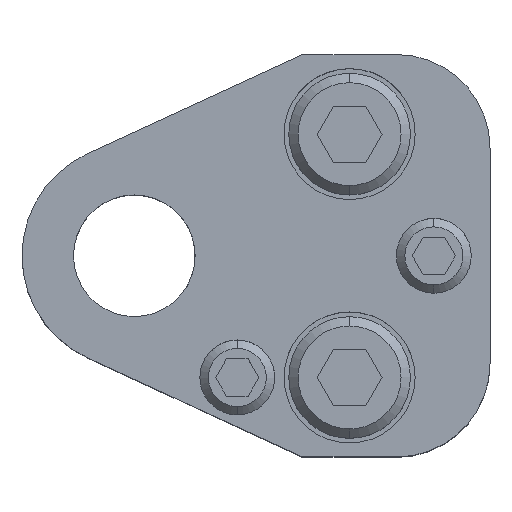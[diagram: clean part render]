
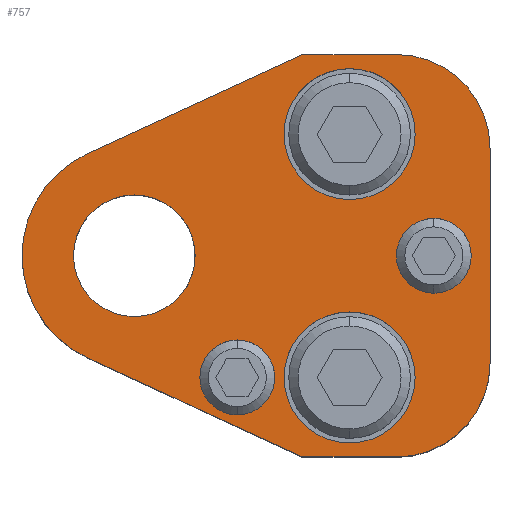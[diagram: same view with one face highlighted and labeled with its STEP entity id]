
A CAD part, top view. The second image highlights one B-rep face of the part: STEP entity #757.
In plain terms, the highlighted planar face has unit normal (0, 0, 1).
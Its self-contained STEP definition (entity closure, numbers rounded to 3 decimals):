
#428=LINE('',#3648,#598);
#433=LINE('',#3663,#603);
#437=LINE('',#3675,#607);
#442=LINE('',#3684,#612);
#447=LINE('',#3698,#617);
#598=VECTOR('',#2943,1.);
#603=VECTOR('',#2956,1.);
#607=VECTOR('',#2968,1.);
#612=VECTOR('',#2975,1.);
#617=VECTOR('',#2988,1.);
#757=ADVANCED_FACE('',(#863,#864,#865,#866,#867,#868),#834,.T.);
#834=PLANE('',#2455);
#863=FACE_BOUND('',#1003,.T.);
#864=FACE_BOUND('',#1004,.T.);
#865=FACE_BOUND('',#1005,.T.);
#866=FACE_BOUND('',#1006,.T.);
#867=FACE_BOUND('',#1007,.T.);
#868=FACE_BOUND('',#1008,.T.);
#1003=EDGE_LOOP('',(#1518,#1519,#1520,#1521,#1522,#1523,#1524,#1525));
#1004=EDGE_LOOP('',(#1526,#1527));
#1005=EDGE_LOOP('',(#1528,#1529));
#1006=EDGE_LOOP('',(#1530,#1531));
#1007=EDGE_LOOP('',(#1532,#1533));
#1008=EDGE_LOOP('',(#1534,#1535));
#1518=ORIENTED_EDGE('',*,*,#2038,.T.);
#1519=ORIENTED_EDGE('',*,*,#2020,.T.);
#1520=ORIENTED_EDGE('',*,*,#2024,.T.);
#1521=ORIENTED_EDGE('',*,*,#2027,.T.);
#1522=ORIENTED_EDGE('',*,*,#2030,.T.);
#1523=ORIENTED_EDGE('',*,*,#2033,.T.);
#1524=ORIENTED_EDGE('',*,*,#2045,.T.);
#1525=ORIENTED_EDGE('',*,*,#2041,.T.);
#1526=ORIENTED_EDGE('',*,*,#2080,.F.);
#1527=ORIENTED_EDGE('',*,*,#2081,.F.);
#1528=ORIENTED_EDGE('',*,*,#2082,.F.);
#1529=ORIENTED_EDGE('',*,*,#2083,.F.);
#1530=ORIENTED_EDGE('',*,*,#2070,.F.);
#1531=ORIENTED_EDGE('',*,*,#2066,.F.);
#1532=ORIENTED_EDGE('',*,*,#2064,.F.);
#1533=ORIENTED_EDGE('',*,*,#2060,.F.);
#1534=ORIENTED_EDGE('',*,*,#2084,.T.);
#1535=ORIENTED_EDGE('',*,*,#2085,.T.);
#1757=VERTEX_POINT('',#3647);
#1758=VERTEX_POINT('',#3649);
#1761=VERTEX_POINT('',#3656);
#1763=VERTEX_POINT('',#3662);
#1765=VERTEX_POINT('',#3668);
#1767=VERTEX_POINT('',#3674);
#1771=VERTEX_POINT('',#3685);
#1773=VERTEX_POINT('',#3691);
#1787=VERTEX_POINT('',#3733);
#1788=VERTEX_POINT('',#3734);
#1791=VERTEX_POINT('',#3745);
#1792=VERTEX_POINT('',#3746);
#1799=VERTEX_POINT('',#3773);
#1800=VERTEX_POINT('',#3774);
#1801=VERTEX_POINT('',#3777);
#1802=VERTEX_POINT('',#3778);
#1803=VERTEX_POINT('',#3781);
#1804=VERTEX_POINT('',#3782);
#2020=EDGE_CURVE('',#1758,#1757,#428,.T.);
#2024=EDGE_CURVE('',#1757,#1761,#2191,.T.);
#2027=EDGE_CURVE('',#1761,#1763,#433,.T.);
#2030=EDGE_CURVE('',#1763,#1765,#2193,.T.);
#2033=EDGE_CURVE('',#1765,#1767,#437,.T.);
#2038=EDGE_CURVE('',#1771,#1758,#442,.T.);
#2041=EDGE_CURVE('',#1773,#1771,#2196,.T.);
#2045=EDGE_CURVE('',#1767,#1773,#447,.T.);
#2060=EDGE_CURVE('',#1787,#1788,#2205,.T.);
#2064=EDGE_CURVE('',#1788,#1787,#2207,.T.);
#2066=EDGE_CURVE('',#1791,#1792,#2209,.T.);
#2070=EDGE_CURVE('',#1792,#1791,#2211,.T.);
#2080=EDGE_CURVE('',#1799,#1800,#2217,.T.);
#2081=EDGE_CURVE('',#1800,#1799,#2218,.T.);
#2082=EDGE_CURVE('',#1801,#1802,#2219,.T.);
#2083=EDGE_CURVE('',#1802,#1801,#2220,.T.);
#2084=EDGE_CURVE('',#1803,#1804,#2221,.T.);
#2085=EDGE_CURVE('',#1804,#1803,#2222,.T.);
#2191=CIRCLE('',#2406,10.);
#2193=CIRCLE('',#2410,10.);
#2196=CIRCLE('',#2416,12.);
#2205=CIRCLE('',#2429,4.);
#2207=CIRCLE('',#2432,4.);
#2209=CIRCLE('',#2435,4.);
#2211=CIRCLE('',#2438,4.);
#2217=CIRCLE('',#2449,7.);
#2218=CIRCLE('',#2450,7.);
#2219=CIRCLE('',#2451,7.);
#2220=CIRCLE('',#2452,7.);
#2221=CIRCLE('',#2453,6.5);
#2222=CIRCLE('',#2454,6.5);
#2406=AXIS2_PLACEMENT_3D('',#3657,#2949,#2950);
#2410=AXIS2_PLACEMENT_3D('',#3669,#2961,#2962);
#2416=AXIS2_PLACEMENT_3D('',#3690,#2981,#2982);
#2429=AXIS2_PLACEMENT_3D('',#3732,#3016,#3017);
#2432=AXIS2_PLACEMENT_3D('',#3741,#3024,#3025);
#2435=AXIS2_PLACEMENT_3D('',#3744,#3030,#3031);
#2438=AXIS2_PLACEMENT_3D('',#3753,#3038,#3039);
#2449=AXIS2_PLACEMENT_3D('',#3772,#3064,#3065);
#2450=AXIS2_PLACEMENT_3D('',#3775,#3066,#3067);
#2451=AXIS2_PLACEMENT_3D('',#3776,#3068,#3069);
#2452=AXIS2_PLACEMENT_3D('',#3779,#3070,#3071);
#2453=AXIS2_PLACEMENT_3D('',#3780,#3072,#3073);
#2454=AXIS2_PLACEMENT_3D('',#3783,#3074,#3075);
#2455=AXIS2_PLACEMENT_3D('',#3784,#3076,#3077);
#2943=DIRECTION('',(1.,0.,0.));
#2949=DIRECTION('',(0.,0.,1.));
#2950=DIRECTION('',(-0.707,0.707,0.));
#2956=DIRECTION('',(0.,1.,0.));
#2961=DIRECTION('',(0.,0.,1.));
#2962=DIRECTION('',(-0.707,-0.707,0.));
#2968=DIRECTION('',(-1.,0.,0.));
#2975=DIRECTION('',(0.908,-0.418,0.));
#2981=DIRECTION('',(0.,0.,1.));
#2982=DIRECTION('',(1.,0.,0.));
#2988=DIRECTION('',(-0.908,-0.418,0.));
#3016=DIRECTION('',(0.,0.,1.));
#3017=DIRECTION('',(-1.,0.,0.));
#3024=DIRECTION('',(0.,0.,1.));
#3025=DIRECTION('',(1.,0.,0.));
#3030=DIRECTION('',(0.,0.,1.));
#3031=DIRECTION('',(-1.,0.,0.));
#3038=DIRECTION('',(0.,0.,1.));
#3039=DIRECTION('',(1.,0.,0.));
#3064=DIRECTION('',(0.,0.,1.));
#3065=DIRECTION('',(1.,0.,0.));
#3066=DIRECTION('',(0.,0.,1.));
#3067=DIRECTION('',(-1.,0.,0.));
#3068=DIRECTION('',(0.,0.,1.));
#3069=DIRECTION('',(1.,0.,0.));
#3070=DIRECTION('',(0.,0.,1.));
#3071=DIRECTION('',(-1.,0.,0.));
#3072=DIRECTION('',(0.,0.,-1.));
#3073=DIRECTION('',(-1.,0.,0.));
#3074=DIRECTION('',(0.,0.,-1.));
#3075=DIRECTION('',(1.,0.,0.));
#3076=DIRECTION('',(0.,0.,1.));
#3077=DIRECTION('',(0.908,-0.418,0.));
#3647=CARTESIAN_POINT('',(28.,-21.5,30.));
#3648=CARTESIAN_POINT('',(18.,-21.5,30.));
#3649=CARTESIAN_POINT('',(18.,-21.5,30.));
#3656=CARTESIAN_POINT('',(38.,-11.5,30.));
#3657=CARTESIAN_POINT('',(28.,-11.5,30.));
#3662=CARTESIAN_POINT('',(38.,11.5,30.));
#3663=CARTESIAN_POINT('',(38.,11.5,30.));
#3668=CARTESIAN_POINT('',(28.,21.5,30.));
#3669=CARTESIAN_POINT('',(28.,11.5,30.));
#3674=CARTESIAN_POINT('',(18.,21.5,30.));
#3675=CARTESIAN_POINT('',(18.,21.5,30.));
#3684=CARTESIAN_POINT('',(18.,-21.5,30.));
#3685=CARTESIAN_POINT('',(-5.019,-10.9,30.));
#3690=CARTESIAN_POINT('',(0.,0.,30.));
#3691=CARTESIAN_POINT('',(-5.019,10.9,30.));
#3698=CARTESIAN_POINT('',(18.,21.5,30.));
#3732=CARTESIAN_POINT('',(11.,-13.,30.));
#3733=CARTESIAN_POINT('',(11.,-17.,30.));
#3734=CARTESIAN_POINT('',(11.,-9.,30.));
#3741=CARTESIAN_POINT('',(11.,-13.,30.));
#3744=CARTESIAN_POINT('',(32.,0.,30.));
#3745=CARTESIAN_POINT('',(32.,-4.,30.));
#3746=CARTESIAN_POINT('',(32.,4.,30.));
#3753=CARTESIAN_POINT('',(32.,0.,30.));
#3772=CARTESIAN_POINT('',(23.,13.,30.));
#3773=CARTESIAN_POINT('',(23.,20.,30.));
#3774=CARTESIAN_POINT('',(23.,6.,30.));
#3775=CARTESIAN_POINT('',(23.,13.,30.));
#3776=CARTESIAN_POINT('',(23.,-13.,30.));
#3777=CARTESIAN_POINT('',(23.,-6.,30.));
#3778=CARTESIAN_POINT('',(23.,-20.,30.));
#3779=CARTESIAN_POINT('',(23.,-13.,30.));
#3780=CARTESIAN_POINT('',(0.,0.,30.));
#3781=CARTESIAN_POINT('',(0.,6.5,30.));
#3782=CARTESIAN_POINT('',(0.,-6.5,30.));
#3783=CARTESIAN_POINT('',(0.,0.,30.));
#3784=CARTESIAN_POINT('',(-5.019,-10.9,30.));
